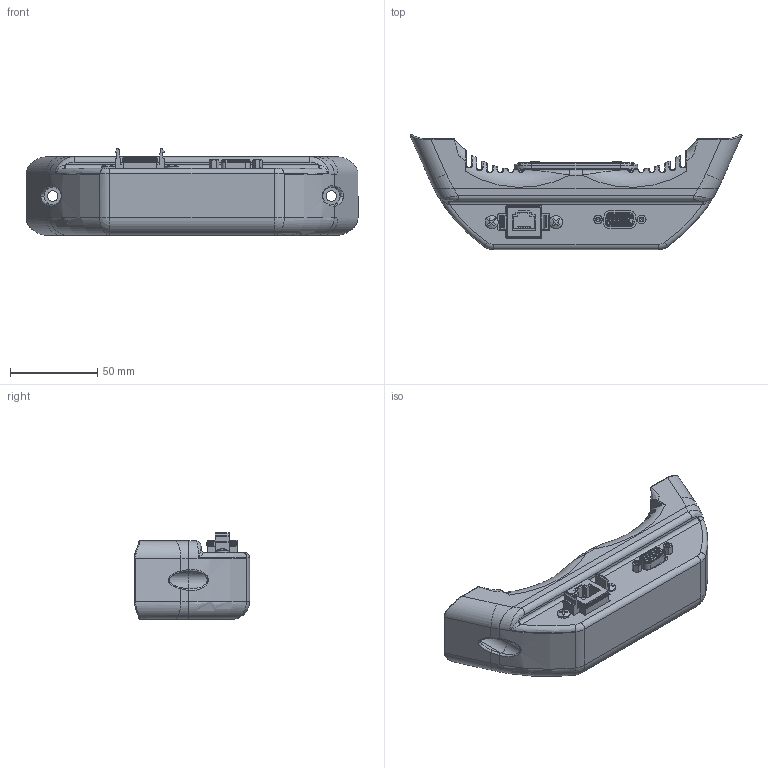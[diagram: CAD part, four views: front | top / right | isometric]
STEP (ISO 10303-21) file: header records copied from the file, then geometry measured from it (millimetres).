
FILE_DESCRIPTION (( 'STEP AP214' ), '1' );
FILE_NAME ('02-045886-001-A02 DEFEATURED GXP.step', '2020-05-28T12:48:55', ( '' ), ( '' ), 'SwSTEP 2.0', 'SolidWorks 2016', '' );
FILE_SCHEMA (( 'AUTOMOTIVE_DESIGN' ));
Length unit declared in the file: millimetre
Products named in the file (1): 02-045886-001-A02 DEFEATURED GXP
Bounding box: 190.61 x 66.15 x 49.6 mm (x, y, z)
Volume: 295071.8 mm3; surface area: 64751.9 mm2
Topology: 2 solids, 15 shells, 1681 faces, 4157 edges, 2495 vertices
Faces by surface type: plane 594, cylinder 478, bspline 283, cone 202, torus 92, sphere 32
Entity records: 81145 total; most frequent: CARTESIAN_POINT 25472, ORIENTED_EDGE 8106, DIRECTION 7276, EDGE_CURVE 4053, AXIS2_PLACEMENT_3D 2692, VERTEX_POINT 2495, LINE 1892, VECTOR 1892
